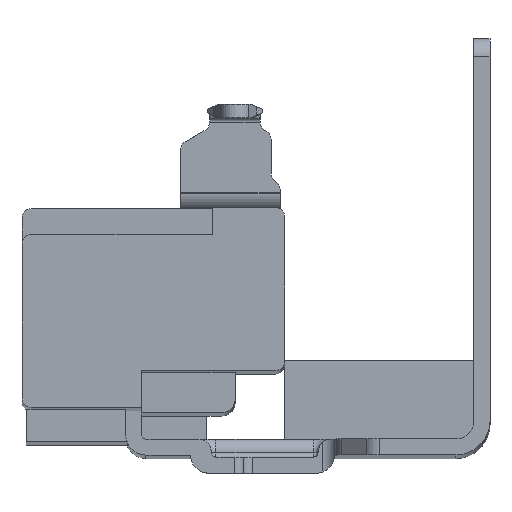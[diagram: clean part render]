
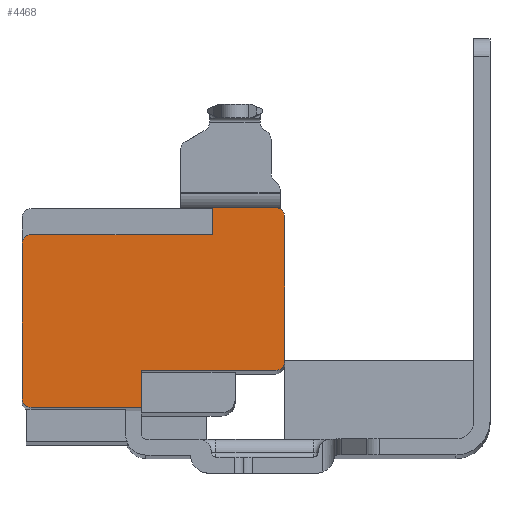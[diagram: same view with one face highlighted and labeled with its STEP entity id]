
A CAD part, top view. The second image highlights one B-rep face of the part: STEP entity #4468.
In plain terms, the highlighted planar face has unit normal (0, 0, 1).
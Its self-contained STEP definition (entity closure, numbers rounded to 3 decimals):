
#9 = ORIENTED_EDGE ( 'NONE', *, *, #5084, .F. ) ;
#27 = CARTESIAN_POINT ( 'NONE',  ( -71.88, 0.03, 194.3 ) ) ;
#46 = DIRECTION ( 'NONE',  ( 1., 0., 0. ) ) ;
#85 = CARTESIAN_POINT ( 'NONE',  ( -70.88, -18.1, 194.3 ) ) ;
#150 = ORIENTED_EDGE ( 'NONE', *, *, #621, .F. ) ;
#167 = LINE ( 'NONE', #4784, #4817 ) ;
#188 = AXIS2_PLACEMENT_3D ( 'NONE', #4255, #1553, #4703 ) ;
#280 = EDGE_CURVE ( 'NONE', #1944, #4932, #167, .T. ) ;
#593 = EDGE_CURVE ( 'NONE', #893, #3872, #2231, .T. ) ;
#597 = LINE ( 'NONE', #983, #3768 ) ;
#616 = CARTESIAN_POINT ( 'NONE',  ( -50.85, 1., 194.3 ) ) ;
#621 = EDGE_CURVE ( 'NONE', #3956, #893, #1020, .T. ) ;
#741 = CIRCLE ( 'NONE', #1062, 1. ) ;
#786 = ORIENTED_EDGE ( 'NONE', *, *, #2599, .T. ) ;
#788 = EDGE_CURVE ( 'NONE', #2445, #3956, #597, .T. ) ;
#871 = DIRECTION ( 'NONE',  ( 0., 0., -1. ) ) ;
#884 = LINE ( 'NONE', #896, #2240 ) ;
#893 = VERTEX_POINT ( 'NONE', #4195 ) ;
#896 = CARTESIAN_POINT ( 'NONE',  ( -58.68, 0., 194.3 ) ) ;
#907 = VERTEX_POINT ( 'NONE', #85 ) ;
#961 = CARTESIAN_POINT ( 'NONE',  ( -58.68, -14., 194.3 ) ) ;
#983 = CARTESIAN_POINT ( 'NONE',  ( -48.65, 4., 194.3 ) ) ;
#1016 = AXIS2_PLACEMENT_3D ( 'NONE', #1422, #1400, #1445 ) ;
#1020 = CIRCLE ( 'NONE', #1016, 1. ) ;
#1062 = AXIS2_PLACEMENT_3D ( 'NONE', #1114, #4273, #1574 ) ;
#1114 = CARTESIAN_POINT ( 'NONE',  ( -70.88, -17.1, 194.3 ) ) ;
#1144 = DIRECTION ( 'NONE',  ( 0., 1., 0. ) ) ;
#1359 = ORIENTED_EDGE ( 'NONE', *, *, #788, .F. ) ;
#1400 = DIRECTION ( 'NONE',  ( 0., 0., -1. ) ) ;
#1422 = CARTESIAN_POINT ( 'NONE',  ( -43.85, 3., 194.3 ) ) ;
#1445 = DIRECTION ( 'NONE',  ( -1., 0., 0. ) ) ;
#1553 = DIRECTION ( 'NONE',  ( 0., 0., -1. ) ) ;
#1574 = DIRECTION ( 'NONE',  ( -1., 0., 0. ) ) ;
#1575 = VERTEX_POINT ( 'NONE', #3990 ) ;
#1607 = CARTESIAN_POINT ( 'NONE',  ( -50.85, 1., 194.3 ) ) ;
#1629 = FACE_OUTER_BOUND ( 'NONE', #4051, .T. ) ;
#1759 = DIRECTION ( 'NONE',  ( -1., 0., 0. ) ) ;
#1784 = AXIS2_PLACEMENT_3D ( 'NONE', #3580, #871, #4022 ) ;
#1786 = CIRCLE ( 'NONE', #1784, 0.97 ) ;
#1944 = VERTEX_POINT ( 'NONE', #5195 ) ;
#2148 = DIRECTION ( 'NONE',  ( 0., 0., 1. ) ) ;
#2231 = LINE ( 'NONE', #3297, #5680 ) ;
#2240 = VECTOR ( 'NONE', #4057, 1000. ) ;
#2339 = EDGE_CURVE ( 'NONE', #2611, #2445, #4238, .T. ) ;
#2445 = VERTEX_POINT ( 'NONE', #2591 ) ;
#2480 = CARTESIAN_POINT ( 'NONE',  ( -71.88, -17.1, 194.3 ) ) ;
#2591 = CARTESIAN_POINT ( 'NONE',  ( -50.85, 4., 194.3 ) ) ;
#2599 = EDGE_CURVE ( 'NONE', #3276, #2675, #4019, .T. ) ;
#2600 = CARTESIAN_POINT ( 'NONE',  ( -42.85, -13., 194.3 ) ) ;
#2611 = VERTEX_POINT ( 'NONE', #616 ) ;
#2674 = CARTESIAN_POINT ( 'NONE',  ( -43.85, 4., 194.3 ) ) ;
#2675 = VERTEX_POINT ( 'NONE', #2480 ) ;
#2958 = EDGE_CURVE ( 'NONE', #907, #1575, #3365, .T. ) ;
#2960 = VECTOR ( 'NONE', #1759, 1000. ) ;
#3276 = VERTEX_POINT ( 'NONE', #27 ) ;
#3297 = CARTESIAN_POINT ( 'NONE',  ( -42.85, 0., 194.3 ) ) ;
#3365 = LINE ( 'NONE', #4993, #5739 ) ;
#3484 = ORIENTED_EDGE ( 'NONE', *, *, #5768, .F. ) ;
#3534 = DIRECTION ( 'NONE',  ( 0., -1., 0. ) ) ;
#3580 = CARTESIAN_POINT ( 'NONE',  ( -70.91, 0.03, 194.3 ) ) ;
#3724 = EDGE_CURVE ( 'NONE', #3276, #5633, #1786, .T. ) ;
#3763 = ORIENTED_EDGE ( 'NONE', *, *, #2339, .F. ) ;
#3768 = VECTOR ( 'NONE', #46, 1000. ) ;
#3872 = VERTEX_POINT ( 'NONE', #2600 ) ;
#3921 = CARTESIAN_POINT ( 'NONE',  ( -40.3, 0., 194.3 ) ) ;
#3950 = VECTOR ( 'NONE', #1144, 1000. ) ;
#3956 = VERTEX_POINT ( 'NONE', #2674 ) ;
#3957 = CARTESIAN_POINT ( 'NONE',  ( -70.91, 1., 194.3 ) ) ;
#3990 = CARTESIAN_POINT ( 'NONE',  ( -58.68, -18.1, 194.3 ) ) ;
#4019 = LINE ( 'NONE', #4204, #5080 ) ;
#4022 = DIRECTION ( 'NONE',  ( -1., 0., 0. ) ) ;
#4051 = EDGE_LOOP ( 'NONE', ( #786, #4545, #5735, #3484, #4674, #9, #4800, #150, #1359, #3763, #4952, #5098 ) ) ;
#4057 = DIRECTION ( 'NONE',  ( 0., -1., 0. ) ) ;
#4155 = LINE ( 'NONE', #5349, #2960 ) ;
#4195 = CARTESIAN_POINT ( 'NONE',  ( -42.85, 3., 194.3 ) ) ;
#4204 = CARTESIAN_POINT ( 'NONE',  ( -71.88, 0., 194.3 ) ) ;
#4238 = LINE ( 'NONE', #1607, #3950 ) ;
#4255 = CARTESIAN_POINT ( 'NONE',  ( -43.85, -13., 194.3 ) ) ;
#4272 = AXIS2_PLACEMENT_3D ( 'NONE', #3921, #2148, #5276 ) ;
#4273 = DIRECTION ( 'NONE',  ( 0., 0., -1. ) ) ;
#4434 = DIRECTION ( 'NONE',  ( -1., 0., 0. ) ) ;
#4444 = CIRCLE ( 'NONE', #188, 1. ) ;
#4468 = ADVANCED_FACE ( 'NONE', ( #1629 ), #4827, .T. ) ;
#4545 = ORIENTED_EDGE ( 'NONE', *, *, #5818, .F. ) ;
#4674 = ORIENTED_EDGE ( 'NONE', *, *, #280, .F. ) ;
#4703 = DIRECTION ( 'NONE',  ( -1., 0., 0. ) ) ;
#4784 = CARTESIAN_POINT ( 'NONE',  ( -40.3, -14., 194.3 ) ) ;
#4800 = ORIENTED_EDGE ( 'NONE', *, *, #593, .F. ) ;
#4809 = EDGE_CURVE ( 'NONE', #2611, #5633, #4155, .T. ) ;
#4817 = VECTOR ( 'NONE', #4434, 1000. ) ;
#4827 = PLANE ( 'NONE',  #4272 ) ;
#4932 = VERTEX_POINT ( 'NONE', #961 ) ;
#4952 = ORIENTED_EDGE ( 'NONE', *, *, #4809, .T. ) ;
#4993 = CARTESIAN_POINT ( 'NONE',  ( -40.3, -18.1, 194.3 ) ) ;
#5080 = VECTOR ( 'NONE', #5566, 1000. ) ;
#5084 = EDGE_CURVE ( 'NONE', #3872, #1944, #4444, .T. ) ;
#5098 = ORIENTED_EDGE ( 'NONE', *, *, #3724, .F. ) ;
#5195 = CARTESIAN_POINT ( 'NONE',  ( -43.85, -14., 194.3 ) ) ;
#5276 = DIRECTION ( 'NONE',  ( -1., 0., 0. ) ) ;
#5349 = CARTESIAN_POINT ( 'NONE',  ( -41.05, 1., 194.3 ) ) ;
#5451 = DIRECTION ( 'NONE',  ( 1., 0., 0. ) ) ;
#5566 = DIRECTION ( 'NONE',  ( 0., -1., 0. ) ) ;
#5633 = VERTEX_POINT ( 'NONE', #3957 ) ;
#5680 = VECTOR ( 'NONE', #3534, 1000. ) ;
#5735 = ORIENTED_EDGE ( 'NONE', *, *, #2958, .T. ) ;
#5739 = VECTOR ( 'NONE', #5451, 1000. ) ;
#5768 = EDGE_CURVE ( 'NONE', #4932, #1575, #884, .T. ) ;
#5818 = EDGE_CURVE ( 'NONE', #907, #2675, #741, .T. ) ;
